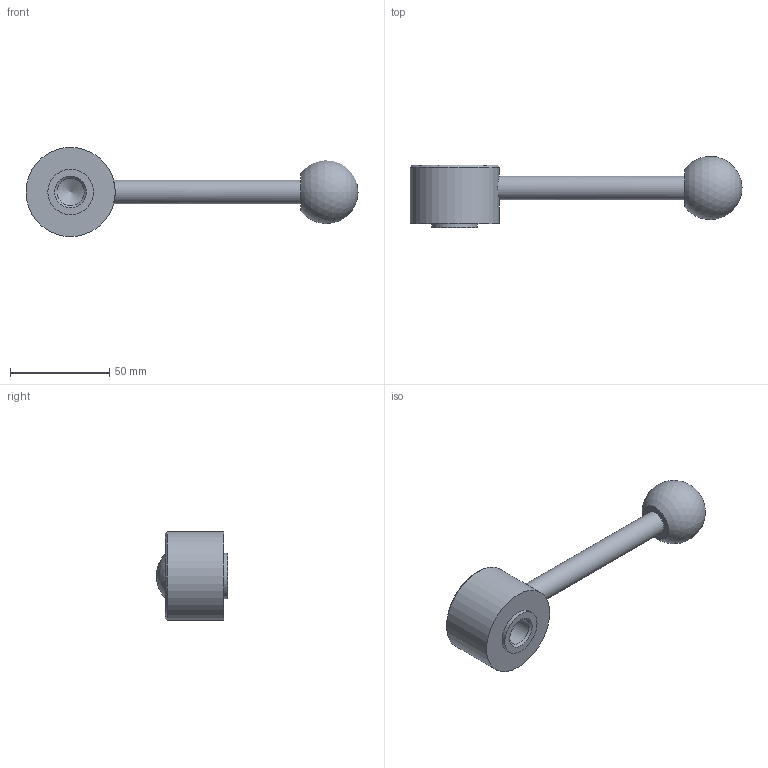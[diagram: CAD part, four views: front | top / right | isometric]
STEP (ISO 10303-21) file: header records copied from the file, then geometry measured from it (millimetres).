
FILE_DESCRIPTION( ( 'STEP AP203' ), '1' );
FILE_NAME( 'C:/Temp/Ganter_Step_05_03_2020/data/2_1/gn_125/gn_125_mb/gn_125_mb_d/Flat Adjustable Lever GN 125-45-M16-D.stp', '2020-03-05T11:00:40', ( 'License CC BY-ND 4.0' ), ( 'CADENAS' ), ' ', 'PARTsolutions', ' ' );
FILE_SCHEMA( ( 'CONFIG_CONTROL_DESIGN' ) );
Length unit declared in the file: millimetre
Products named in the file (1): _Flat Adjustable Lever GN 125-45-M16-D
Bounding box: 167.5 x 35.88 x 45 mm (x, y, z)
Volume: 71123.9 mm3; surface area: 14935.3 mm2
Topology: 1 solids, 1 shells, 14 faces, 25 edges, 16 vertices
Faces by surface type: cylinder 5, plane 5, cone 3, sphere 1
Full cylindrical faces by diameter (mm): 12 x1, 13.835 x1, 23 x1, 32 x1, 45 x1
Entity records: 406 total; most frequent: CARTESIAN_POINT 126, DIRECTION 54, AXIS2_PLACEMENT_3D 27, EDGE_LOOP 26, ORIENTED_EDGE 26, FACE_OUTER_BOUND 19, VERTEX_POINT 15, ADVANCED_FACE 14
